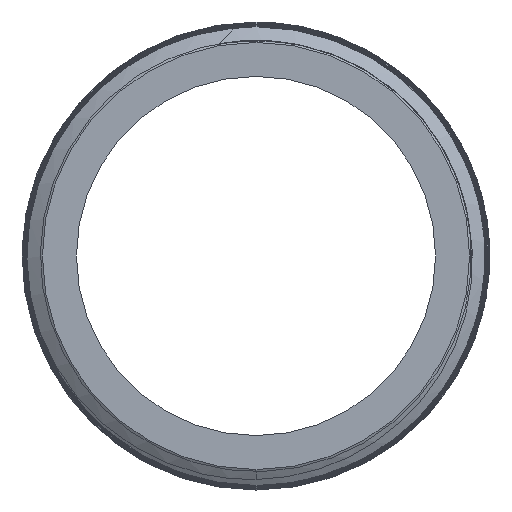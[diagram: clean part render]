
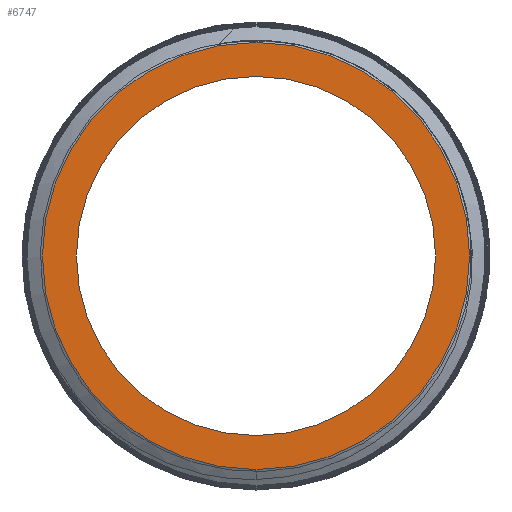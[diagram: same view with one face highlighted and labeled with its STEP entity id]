
A CAD part, left-side view. The second image highlights one B-rep face of the part: STEP entity #6747.
In plain terms, the highlighted planar face has unit normal (-1, 0, 0).
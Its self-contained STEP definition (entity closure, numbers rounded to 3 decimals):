
#142 = VERTEX_POINT ( 'NONE', #652 ) ;
#181 = CARTESIAN_POINT ( 'NONE',  ( -150., 0., 0. ) ) ;
#187 = AXIS2_PLACEMENT_3D ( 'NONE', #2987, #1941, #1834 ) ;
#336 = CARTESIAN_POINT ( 'NONE',  ( -150., 0., -6.6 ) ) ;
#652 = CARTESIAN_POINT ( 'NONE',  ( -150., 0., 7.85 ) ) ;
#693 = DIRECTION ( 'NONE',  ( 0., 0., 1. ) ) ;
#1433 = FACE_OUTER_BOUND ( 'NONE', #7137, .T. ) ;
#1539 = VERTEX_POINT ( 'NONE', #5938 ) ;
#1565 = VERTEX_POINT ( 'NONE', #336 ) ;
#1834 = DIRECTION ( 'NONE',  ( 0., 0., 1. ) ) ;
#1863 = DIRECTION ( 'NONE',  ( 0., 0., 1. ) ) ;
#1933 = ORIENTED_EDGE ( 'NONE', *, *, #2587, .F. ) ;
#1941 = DIRECTION ( 'NONE',  ( -1., 0., 0. ) ) ;
#2183 = AXIS2_PLACEMENT_3D ( 'NONE', #4704, #6403, #5919 ) ;
#2482 = DIRECTION ( 'NONE',  ( 0., 0., 1. ) ) ;
#2529 = VERTEX_POINT ( 'NONE', #6912 ) ;
#2587 = EDGE_CURVE ( 'NONE', #1565, #2529, #4663, .T. ) ;
#2889 = EDGE_CURVE ( 'NONE', #142, #1539, #6347, .T. ) ;
#2987 = CARTESIAN_POINT ( 'NONE',  ( -150., 0., 0. ) ) ;
#3006 = CIRCLE ( 'NONE', #7151, 6.6 ) ;
#3742 = ORIENTED_EDGE ( 'NONE', *, *, #6114, .T. ) ;
#4348 = AXIS2_PLACEMENT_3D ( 'NONE', #4682, #5860, #2482 ) ;
#4663 = CIRCLE ( 'NONE', #187, 6.6 ) ;
#4682 = CARTESIAN_POINT ( 'NONE',  ( -150., 0., 0. ) ) ;
#4704 = CARTESIAN_POINT ( 'NONE',  ( -150., 6.6, 0. ) ) ;
#4959 = EDGE_CURVE ( 'NONE', #2529, #1565, #3006, .T. ) ;
#5247 = PLANE ( 'NONE',  #2183 ) ;
#5343 = ORIENTED_EDGE ( 'NONE', *, *, #4959, .F. ) ;
#5404 = CIRCLE ( 'NONE', #6740, 7.85 ) ;
#5809 = CARTESIAN_POINT ( 'NONE',  ( -150., 0., 0. ) ) ;
#5860 = DIRECTION ( 'NONE',  ( -1., 0., 0. ) ) ;
#5919 = DIRECTION ( 'NONE',  ( 0., 0., -1. ) ) ;
#5938 = CARTESIAN_POINT ( 'NONE',  ( -150., 0., -7.85 ) ) ;
#6114 = EDGE_CURVE ( 'NONE', #1539, #142, #5404, .T. ) ;
#6347 = CIRCLE ( 'NONE', #4348, 7.85 ) ;
#6367 = FACE_BOUND ( 'NONE', #6532, .T. ) ;
#6379 = DIRECTION ( 'NONE',  ( -1., 0., 0. ) ) ;
#6388 = ORIENTED_EDGE ( 'NONE', *, *, #2889, .T. ) ;
#6403 = DIRECTION ( 'NONE',  ( 1., 0., 0. ) ) ;
#6479 = DIRECTION ( 'NONE',  ( -1., 0., 0. ) ) ;
#6532 = EDGE_LOOP ( 'NONE', ( #5343, #1933 ) ) ;
#6740 = AXIS2_PLACEMENT_3D ( 'NONE', #5809, #6479, #693 ) ;
#6747 = ADVANCED_FACE ( 'NONE', ( #6367, #1433 ), #5247, .F. ) ;
#6912 = CARTESIAN_POINT ( 'NONE',  ( -150., 0., 6.6 ) ) ;
#7137 = EDGE_LOOP ( 'NONE', ( #3742, #6388 ) ) ;
#7151 = AXIS2_PLACEMENT_3D ( 'NONE', #181, #6379, #1863 ) ;
